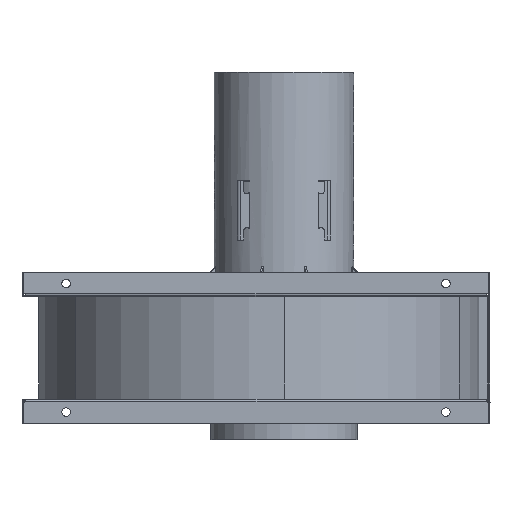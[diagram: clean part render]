
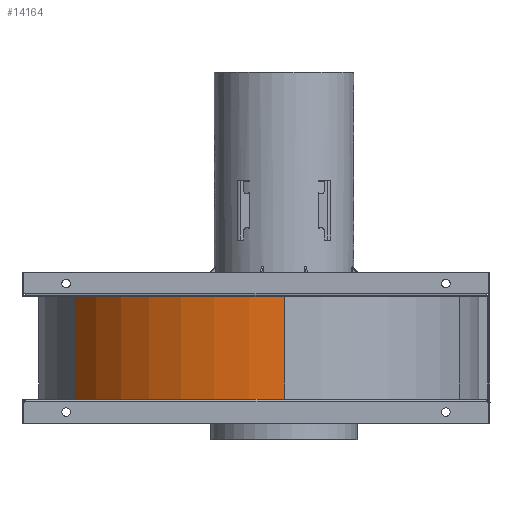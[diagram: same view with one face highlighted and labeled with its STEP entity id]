
A CAD part, left-side view. The second image highlights one B-rep face of the part: STEP entity #14164.
In plain terms, the highlighted cylindrical face has radius 238.515 mm (diameter 477.03 mm), a partial arc.
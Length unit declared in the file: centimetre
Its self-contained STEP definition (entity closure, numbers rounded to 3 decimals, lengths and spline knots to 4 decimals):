
#87=CYLINDRICAL_SURFACE('',#14938,23.8515);
#567=CIRCLE('',#14939,23.8515);
#568=CIRCLE('',#14940,23.8515);
#1844=FACE_OUTER_BOUND('',#2612,.T.);
#2612=EDGE_LOOP('',(#12124,#12125,#12126,#12127));
#3789=LINE('',#26628,#4923);
#3790=LINE('',#26634,#4924);
#4923=VECTOR('',#17382,11.);
#4924=VECTOR('',#17389,11.);
#6915=VERTEX_POINT('',#26624);
#6916=VERTEX_POINT('',#26626);
#6917=VERTEX_POINT('',#26630);
#6918=VERTEX_POINT('',#26632);
#8879=EDGE_CURVE('',#6916,#6915,#3789,.T.);
#8880=EDGE_CURVE('',#6915,#6917,#567,.T.);
#8881=EDGE_CURVE('',#6918,#6916,#568,.T.);
#8882=EDGE_CURVE('',#6918,#6917,#3790,.T.);
#12124=ORIENTED_EDGE('',*,*,#8880,.F.);
#12125=ORIENTED_EDGE('',*,*,#8879,.F.);
#12126=ORIENTED_EDGE('',*,*,#8881,.F.);
#12127=ORIENTED_EDGE('',*,*,#8882,.T.);
#14164=ADVANCED_FACE('',(#1844),#87,.T.);
#14938=AXIS2_PLACEMENT_3D('',#26629,#17383,#17384);
#14939=AXIS2_PLACEMENT_3D('',#26631,#17385,#17386);
#14940=AXIS2_PLACEMENT_3D('',#26633,#17387,#17388);
#17382=DIRECTION('',(0.,0.,-1.));
#17383=DIRECTION('center_axis',(0.,0.,
-1.));
#17384=DIRECTION('ref_axis',(-0.997,-0.079,0.));
#17385=DIRECTION('center_axis',(0.,0.,
-1.));
#17386=DIRECTION('ref_axis',(-0.997,-0.079,0.));
#17387=DIRECTION('center_axis',(0.,0.,
1.));
#17388=DIRECTION('ref_axis',(-0.997,-0.079,0.));
#17389=DIRECTION('',(0.,0.,-1.));
#26624=CARTESIAN_POINT('',(-27.4084,-1.9031,-4.625));
#26626=CARTESIAN_POINT('',(-27.4084,-1.9031,6.375));
#26628=CARTESIAN_POINT('',(-27.4084,-1.9031,6.375));
#26629=CARTESIAN_POINT('Origin',(-3.6318,-0.015,6.375));
#26630=CARTESIAN_POINT('',(-15.6827,20.5682,-4.625));
#26631=CARTESIAN_POINT('Origin',(-3.6318,-0.015,-4.625));
#26632=CARTESIAN_POINT('',(-15.6827,20.5682,6.375));
#26633=CARTESIAN_POINT('Origin',(-3.6318,-0.015,6.375));
#26634=CARTESIAN_POINT('',(-15.6827,20.5682,6.375));
